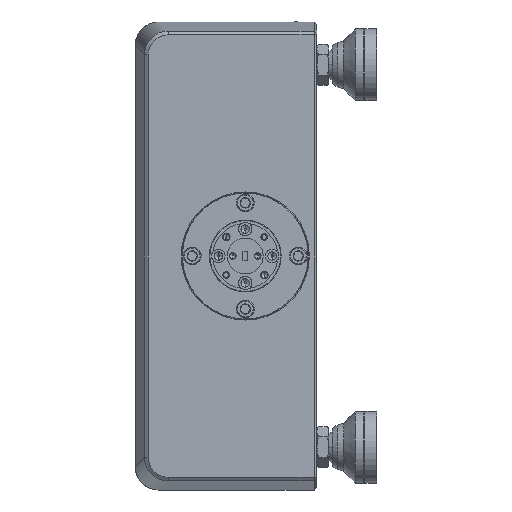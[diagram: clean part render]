
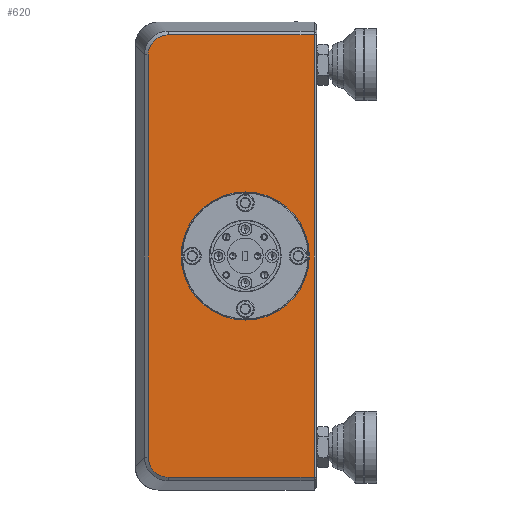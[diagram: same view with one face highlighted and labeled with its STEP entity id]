
A CAD part, left-side view. The second image highlights one B-rep face of the part: STEP entity #620.
In plain terms, the highlighted planar face has unit normal (-1, 0, 0).
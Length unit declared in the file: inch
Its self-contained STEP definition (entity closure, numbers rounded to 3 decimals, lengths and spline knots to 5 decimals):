
#361 = CARTESIAN_POINT ( 'NONE',  ( -2.75, 4.04607, 2.31232 ) ) ;
#567 = ORIENTED_EDGE ( 'NONE', *, *, #35327, .T. ) ;
#620 = ADVANCED_FACE ( 'NONE', ( #24174, #43036 ), #53130, .F. ) ;
#749 = CARTESIAN_POINT ( 'NONE',  ( -2.75, 4.85052, 2.17101 ) ) ;
#2021 = CARTESIAN_POINT ( 'NONE',  ( -2.75, 4.86115, -2.1034 ) ) ;
#2539 = CARTESIAN_POINT ( 'NONE',  ( -2.75, 4.8598, -2.13082 ) ) ;
#3329 = CARTESIAN_POINT ( 'NONE',  ( -2.75, 4.85051, -2.17102 ) ) ;
#3519 = CARTESIAN_POINT ( 'NONE',  ( -2.75, 4.79056, 2.26096 ) ) ;
#3570 = EDGE_CURVE ( 'NONE', #5274, #31144, #50425, .T. ) ;
#3595 = CARTESIAN_POINT ( 'NONE',  ( -2.75, 4.71984, -2.30169 ) ) ;
#4661 = CARTESIAN_POINT ( 'NONE',  ( -2.75, 4.65223, 2.31232 ) ) ;
#4675 = VECTOR ( 'NONE', #34334, 39.37008 ) ;
#4778 = CARTESIAN_POINT ( 'NONE',  ( -2.75, 4.80979, 2.24174 ) ) ;
#5274 = VERTEX_POINT ( 'NONE', #41688 ) ;
#6248 = CARTESIAN_POINT ( 'NONE',  ( -2.75, 4.04607, 0. ) ) ;
#6291 = LINE ( 'NONE', #9792, #18699 ) ;
#6572 = CARTESIAN_POINT ( 'NONE',  ( -2.75, 4.78, -2.26962 ) ) ;
#6775 = EDGE_CURVE ( 'NONE', #31144, #5274, #7878, .T. ) ;
#7207 = EDGE_CURVE ( 'NONE', #42977, #39197, #23036, .T. ) ;
#7558 = CARTESIAN_POINT ( 'NONE',  ( -2.75, 4.74506, 2.2913 ) ) ;
#7635 = EDGE_CURVE ( 'NONE', #39197, #19026, #28655, .T. ) ;
#7797 = EDGE_CURVE ( 'NONE', #30816, #34168, #45197, .T. ) ;
#7827 = CARTESIAN_POINT ( 'NONE',  ( -2.75, 4.84012, 2.19624 ) ) ;
#7878 = CIRCLE ( 'NONE', #37063, 0.67 ) ;
#8059 = DIRECTION ( 'NONE',  ( 0., 1., 0. ) ) ;
#8448 = DIRECTION ( 'NONE',  ( 0., 1., 0. ) ) ;
#8792 = ORIENTED_EDGE ( 'NONE', *, *, #7797, .T. ) ;
#8827 = CARTESIAN_POINT ( 'NONE',  ( -2.75, 4.78, 2.26962 ) ) ;
#9182 = ORIENTED_EDGE ( 'NONE', *, *, #7635, .T. ) ;
#9286 = VECTOR ( 'NONE', #49918, 39.37008 ) ;
#9365 = EDGE_LOOP ( 'NONE', ( #30670, #39436 ) ) ;
#9403 = CARTESIAN_POINT ( 'NONE',  ( -2.75, 3.12607, -2.31232 ) ) ;
#9792 = CARTESIAN_POINT ( 'NONE',  ( -2.75, 3.12607, 0. ) ) ;
#10909 = DIRECTION ( 'NONE',  ( 0., 0., 1. ) ) ;
#11596 = CARTESIAN_POINT ( 'NONE',  ( -2.75, 4.71985, 2.30168 ) ) ;
#12749 = CARTESIAN_POINT ( 'NONE',  ( -2.75, 4.65223, -2.31232 ) ) ;
#14895 = CARTESIAN_POINT ( 'NONE',  ( -2.75, 4.65223, -2.31232 ) ) ;
#14929 = CARTESIAN_POINT ( 'NONE',  ( -2.75, 3.84607, 0. ) ) ;
#15160 = CARTESIAN_POINT ( 'NONE',  ( -2.75, 4.67966, -2.31099 ) ) ;
#15421 = CARTESIAN_POINT ( 'NONE',  ( -2.75, 4.666, -2.31232 ) ) ;
#16117 = DIRECTION ( 'NONE',  ( 1., 0., 0. ) ) ;
#16159 = EDGE_CURVE ( 'NONE', #34168, #42977, #32880, .T. ) ;
#17119 = AXIS2_PLACEMENT_3D ( 'NONE', #6248, #16117, #8059 ) ;
#17955 = CARTESIAN_POINT ( 'NONE',  ( -2.75, 4.86115, 0. ) ) ;
#18540 = DIRECTION ( 'NONE',  ( 0., 0., 1. ) ) ;
#18664 = EDGE_LOOP ( 'NONE', ( #9182, #567, #42714, #8792, #19122, #38880 ) ) ;
#18699 = VECTOR ( 'NONE', #26196, 39.37008 ) ;
#19026 = VERTEX_POINT ( 'NONE', #12749 ) ;
#19122 = ORIENTED_EDGE ( 'NONE', *, *, #16159, .T. ) ;
#21179 = CARTESIAN_POINT ( 'NONE',  ( -2.75, 4.75712, 2.28486 ) ) ;
#22295 = DIRECTION ( 'NONE',  ( -1., 0., 0. ) ) ;
#23036 = LINE ( 'NONE', #17955, #4675 ) ;
#23672 = CARTESIAN_POINT ( 'NONE',  ( -2.75, 4.83369, 2.2083 ) ) ;
#23932 = CARTESIAN_POINT ( 'NONE',  ( -2.75, 4.86115, 2.11717 ) ) ;
#24017 = CARTESIAN_POINT ( 'NONE',  ( -2.75, 4.74507, -2.29129 ) ) ;
#24174 = FACE_OUTER_BOUND ( 'NONE', #18664, .T. ) ;
#24320 = VERTEX_POINT ( 'NONE', #9403 ) ;
#26196 = DIRECTION ( 'NONE',  ( 0., 0., 1. ) ) ;
#27000 = CARTESIAN_POINT ( 'NONE',  ( -2.75, 4.70676, -2.30563 ) ) ;
#27138 = CARTESIAN_POINT ( 'NONE',  ( -2.75, 3.84607, 0. ) ) ;
#27271 = CARTESIAN_POINT ( 'NONE',  ( -2.75, 4.85446, -2.1579 ) ) ;
#27448 = CARTESIAN_POINT ( 'NONE',  ( -2.75, 4.67964, 2.31098 ) ) ;
#28655 = B_SPLINE_CURVE_WITH_KNOTS ( 'NONE', 3,
 ( #40124, #39321, #2539, #27271, #3329, #43884, #52439, #35837, #32085, #48419, #6572, #44408, #24017, #3595, #27000, #15160, #15421, #14895 ),
 .UNSPECIFIED., .F., .F.,
 ( 4, 2, 2, 2, 2, 2, 2, 2, 4 ),
 ( 0., 0.125, 0.25, 0.375, 0.5, 0.625, 0.75, 0.875, 1. ),
 .UNSPECIFIED. ) ;
#30670 = ORIENTED_EDGE ( 'NONE', *, *, #3570, .F. ) ;
#30816 = VERTEX_POINT ( 'NONE', #31503 ) ;
#31144 = VERTEX_POINT ( 'NONE', #46819 ) ;
#31503 = CARTESIAN_POINT ( 'NONE',  ( -2.75, 3.12607, 2.31232 ) ) ;
#32085 = CARTESIAN_POINT ( 'NONE',  ( -2.75, 4.80979, -2.24174 ) ) ;
#32118 = DIRECTION ( 'NONE',  ( -1., 0., 0. ) ) ;
#32880 = B_SPLINE_CURVE_WITH_KNOTS ( 'NONE', 3,
 ( #41566, #48072, #27448, #33533, #11596, #7558, #21179, #8827, #3519, #4778, #37541, #23672, #7827, #749, #44329, #49597, #23932, #39762 ),
 .UNSPECIFIED., .F., .F.,
 ( 4, 2, 2, 2, 2, 2, 2, 2, 4 ),
 ( 0., 0.125, 0.25, 0.375, 0.5, 0.625, 0.75, 0.875, 1. ),
 .UNSPECIFIED. ) ;
#33533 = CARTESIAN_POINT ( 'NONE',  ( -2.75, 4.70673, 2.30563 ) ) ;
#34168 = VERTEX_POINT ( 'NONE', #4661 ) ;
#34334 = DIRECTION ( 'NONE',  ( 0., 0., -1. ) ) ;
#35158 = CARTESIAN_POINT ( 'NONE',  ( -2.75, 4.86115, 2.1034 ) ) ;
#35327 = EDGE_CURVE ( 'NONE', #19026, #24320, #46688, .T. ) ;
#35837 = CARTESIAN_POINT ( 'NONE',  ( -2.75, 4.81844, -2.23117 ) ) ;
#36480 = VECTOR ( 'NONE', #8448, 39.37008 ) ;
#37063 = AXIS2_PLACEMENT_3D ( 'NONE', #27138, #22295, #18540 ) ;
#37541 = CARTESIAN_POINT ( 'NONE',  ( -2.75, 4.81844, 2.23117 ) ) ;
#38447 = AXIS2_PLACEMENT_3D ( 'NONE', #14929, #32118, #10909 ) ;
#38880 = ORIENTED_EDGE ( 'NONE', *, *, #7207, .T. ) ;
#39197 = VERTEX_POINT ( 'NONE', #2021 ) ;
#39321 = CARTESIAN_POINT ( 'NONE',  ( -2.75, 4.86115, -2.11713 ) ) ;
#39436 = ORIENTED_EDGE ( 'NONE', *, *, #6775, .F. ) ;
#39762 = CARTESIAN_POINT ( 'NONE',  ( -2.75, 4.86115, 2.1034 ) ) ;
#40124 = CARTESIAN_POINT ( 'NONE',  ( -2.75, 4.86115, -2.1034 ) ) ;
#41566 = CARTESIAN_POINT ( 'NONE',  ( -2.75, 4.65223, 2.31232 ) ) ;
#41688 = CARTESIAN_POINT ( 'NONE',  ( -2.75, 3.84607, 0.67 ) ) ;
#41903 = CARTESIAN_POINT ( 'NONE',  ( -2.75, 4.04607, -2.31232 ) ) ;
#42714 = ORIENTED_EDGE ( 'NONE', *, *, #49705, .T. ) ;
#42977 = VERTEX_POINT ( 'NONE', #35158 ) ;
#43036 = FACE_BOUND ( 'NONE', #9365, .T. ) ;
#43884 = CARTESIAN_POINT ( 'NONE',  ( -2.75, 4.84013, -2.19623 ) ) ;
#44329 = CARTESIAN_POINT ( 'NONE',  ( -2.75, 4.85446, 2.15793 ) ) ;
#44408 = CARTESIAN_POINT ( 'NONE',  ( -2.75, 4.75712, -2.28486 ) ) ;
#45197 = LINE ( 'NONE', #361, #36480 ) ;
#46688 = LINE ( 'NONE', #41903, #9286 ) ;
#46819 = CARTESIAN_POINT ( 'NONE',  ( -2.75, 3.84607, -0.67 ) ) ;
#48072 = CARTESIAN_POINT ( 'NONE',  ( -2.75, 4.66596, 2.31232 ) ) ;
#48419 = CARTESIAN_POINT ( 'NONE',  ( -2.75, 4.79057, -2.26097 ) ) ;
#49597 = CARTESIAN_POINT ( 'NONE',  ( -2.75, 4.85981, 2.13083 ) ) ;
#49705 = EDGE_CURVE ( 'NONE', #24320, #30816, #6291, .T. ) ;
#49918 = DIRECTION ( 'NONE',  ( 0., -1., 0. ) ) ;
#50425 = CIRCLE ( 'NONE', #38447, 0.67 ) ;
#52439 = CARTESIAN_POINT ( 'NONE',  ( -2.75, 4.83369, -2.20829 ) ) ;
#53130 = PLANE ( 'NONE',  #17119 ) ;
